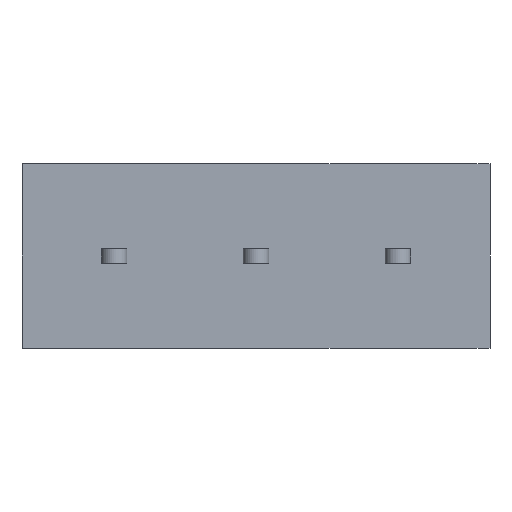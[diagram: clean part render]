
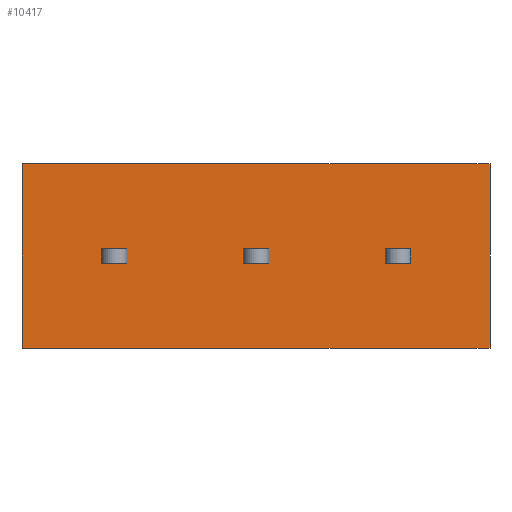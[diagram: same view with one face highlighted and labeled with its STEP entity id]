
A CAD part, front view. The second image highlights one B-rep face of the part: STEP entity #10417.
In plain terms, the highlighted planar face has unit normal (0, -1, 0).
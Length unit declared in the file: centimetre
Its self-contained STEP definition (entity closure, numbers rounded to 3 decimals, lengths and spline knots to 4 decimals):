
#595=VECTOR('',#11259,1.);
#598=VECTOR('',#11265,1.);
#607=VECTOR('',#11288,1.);
#610=VECTOR('',#11296,1.);
#1012=VECTOR('',#11840,1.);
#1101=VECTOR('',#12065,1.);
#1105=VECTOR('',#12070,1.);
#1116=VECTOR('',#12103,1.);
#1118=VECTOR('',#12106,1.);
#1219=VECTOR('',#12353,1.);
#1223=VECTOR('',#12358,1.);
#1234=VECTOR('',#12391,1.);
#1236=VECTOR('',#12394,1.);
#1285=VECTOR('',#12475,1.);
#1293=VECTOR('',#12484,1.);
#1294=VECTOR('',#12485,1.);
#1787=LINE('',#13329,#595);
#1790=LINE('',#13338,#598);
#1799=LINE('',#13361,#607);
#1802=LINE('',#13369,#610);
#2204=LINE('',#14873,#1012);
#2293=LINE('',#15183,#1101);
#2297=LINE('',#15192,#1105);
#2308=LINE('',#15227,#1116);
#2310=LINE('',#15231,#1118);
#2411=LINE('',#15565,#1219);
#2415=LINE('',#15574,#1223);
#2426=LINE('',#15609,#1234);
#2428=LINE('',#15613,#1236);
#2477=LINE('',#15714,#1285);
#2485=LINE('',#15731,#1293);
#2486=LINE('',#15732,#1294);
#2994=VERTEX_POINT('',#13330);
#2995=VERTEX_POINT('',#13331);
#2998=VERTEX_POINT('',#13339);
#3003=VERTEX_POINT('',#13362);
#3341=VERTEX_POINT('',#14871);
#3343=VERTEX_POINT('',#14874);
#3439=VERTEX_POINT('',#15184);
#3440=VERTEX_POINT('',#15185);
#3443=VERTEX_POINT('',#15193);
#3454=VERTEX_POINT('',#15228);
#3553=VERTEX_POINT('',#15566);
#3554=VERTEX_POINT('',#15567);
#3557=VERTEX_POINT('',#15575);
#3568=VERTEX_POINT('',#15610);
#3593=VERTEX_POINT('',#15715);
#3594=VERTEX_POINT('',#15716);
#4173=EDGE_CURVE('',#2994,#2995,#1787,.T.);
#4177=EDGE_CURVE('',#2995,#2998,#1790,.T.);
#4189=EDGE_CURVE('',#2998,#3003,#1799,.T.);
#4193=EDGE_CURVE('',#3003,#2994,#1802,.T.);
#4701=EDGE_CURVE('',#3343,#3341,#2204,.T.);
#4836=EDGE_CURVE('',#3439,#3440,#2293,.T.);
#4840=EDGE_CURVE('',#3443,#3439,#2297,.T.);
#4857=EDGE_CURVE('',#3454,#3443,#2308,.T.);
#4859=EDGE_CURVE('',#3440,#3454,#2310,.T.);
#5006=EDGE_CURVE('',#3553,#3554,#2411,.T.);
#5010=EDGE_CURVE('',#3557,#3553,#2415,.T.);
#5027=EDGE_CURVE('',#3568,#3557,#2426,.T.);
#5029=EDGE_CURVE('',#3554,#3568,#2428,.T.);
#5080=EDGE_CURVE('',#3593,#3594,#2477,.T.);
#5088=EDGE_CURVE('',#3594,#3343,#2485,.T.);
#5089=EDGE_CURVE('',#3593,#3341,#2486,.T.);
#7620=ORIENTED_EDGE('',*,*,#4189,.F.);
#7621=ORIENTED_EDGE('',*,*,#4177,.F.);
#7622=ORIENTED_EDGE('',*,*,#4173,.F.);
#7623=ORIENTED_EDGE('',*,*,#4193,.F.);
#7624=ORIENTED_EDGE('',*,*,#4840,.T.);
#7625=ORIENTED_EDGE('',*,*,#4836,.T.);
#7626=ORIENTED_EDGE('',*,*,#4859,.T.);
#7627=ORIENTED_EDGE('',*,*,#4857,.T.);
#7628=ORIENTED_EDGE('',*,*,#5010,.T.);
#7629=ORIENTED_EDGE('',*,*,#5006,.T.);
#7630=ORIENTED_EDGE('',*,*,#5029,.T.);
#7631=ORIENTED_EDGE('',*,*,#5027,.T.);
#7632=ORIENTED_EDGE('',*,*,#5088,.T.);
#7633=ORIENTED_EDGE('',*,*,#4701,.T.);
#7634=ORIENTED_EDGE('',*,*,#5089,.F.);
#7635=ORIENTED_EDGE('',*,*,#5080,.T.);
#9165=EDGE_LOOP('',(#7620,#7621,#7622,#7623));
#9166=EDGE_LOOP('',(#7624,#7625,#7626,#7627));
#9167=EDGE_LOOP('',(#7628,#7629,#7630,#7631));
#9168=EDGE_LOOP('',(#7632,#7633,#7634,#7635));
#9813=FACE_BOUND('',#9165,.T.);
#9814=FACE_BOUND('',#9166,.T.);
#9815=FACE_BOUND('',#9167,.T.);
#9816=FACE_BOUND('',#9168,.T.);
#10417=ADVANCED_FACE('',(#9813,#9814,#9815,#9816),#10909,.T.);
#10909=PLANE('',#17747);
#11259=DIRECTION('',(-1.,0.,0.));
#11265=DIRECTION('',(0.,0.,-1.));
#11288=DIRECTION('',(1.,0.,0.));
#11296=DIRECTION('',(0.,0.,1.));
#11840=DIRECTION('',(0.,0.,1.));
#12065=DIRECTION('',(0.,0.,1.));
#12070=DIRECTION('',(-1.,0.,0.));
#12103=DIRECTION('',(0.,0.,-1.));
#12106=DIRECTION('',(1.,0.,0.));
#12353=DIRECTION('',(0.,0.,1.));
#12358=DIRECTION('',(-1.,0.,0.));
#12391=DIRECTION('',(0.,0.,-1.));
#12394=DIRECTION('',(1.,0.,0.));
#12475=DIRECTION('',(0.,0.,-1.));
#12483=DIRECTION('',(0.,-1.,0.));
#12484=DIRECTION('',(1.,0.,0.));
#12485=DIRECTION('',(1.,0.,0.));
#13329=CARTESIAN_POINT('',(-0.63,0.,0.05));
#13330=CARTESIAN_POINT('',(-0.33,0.,0.05));
#13331=CARTESIAN_POINT('',(-0.51,0.,0.05));
#13338=CARTESIAN_POINT('',(-0.51,0.,-0.175));
#13339=CARTESIAN_POINT('',(-0.51,0.,-0.05));
#13361=CARTESIAN_POINT('',(-0.63,0.,-0.05));
#13362=CARTESIAN_POINT('',(-0.33,0.,-0.05));
#13369=CARTESIAN_POINT('',(-0.33,0.,-0.175));
#14871=CARTESIAN_POINT('',(2.23,0.,0.65));
#14873=CARTESIAN_POINT('',(2.23,0.,0.65));
#14874=CARTESIAN_POINT('',(2.23,0.,-0.65));
#15183=CARTESIAN_POINT('',(1.49,0.,-0.175));
#15184=CARTESIAN_POINT('',(1.49,0.,-0.05));
#15185=CARTESIAN_POINT('',(1.49,0.,0.05));
#15192=CARTESIAN_POINT('',(0.79,0.,-0.05));
#15193=CARTESIAN_POINT('',(1.67,0.,-0.05));
#15227=CARTESIAN_POINT('',(1.67,0.,-0.175));
#15228=CARTESIAN_POINT('',(1.67,0.,0.05));
#15231=CARTESIAN_POINT('',(0.79,0.,0.05));
#15565=CARTESIAN_POINT('',(0.49,0.,-0.175));
#15566=CARTESIAN_POINT('',(0.49,0.,-0.05));
#15567=CARTESIAN_POINT('',(0.49,0.,0.05));
#15574=CARTESIAN_POINT('',(0.29,0.,-0.05));
#15575=CARTESIAN_POINT('',(0.67,0.,-0.05));
#15609=CARTESIAN_POINT('',(0.67,0.,-0.175));
#15610=CARTESIAN_POINT('',(0.67,0.,0.05));
#15613=CARTESIAN_POINT('',(0.29,0.,0.05));
#15714=CARTESIAN_POINT('',(-1.07,0.,0.65));
#15715=CARTESIAN_POINT('',(-1.07,0.,0.65));
#15716=CARTESIAN_POINT('',(-1.07,0.,-0.65));
#15730=CARTESIAN_POINT('',(-1.07,0.,0.));
#15731=CARTESIAN_POINT('',(-1.07,0.,-0.65));
#15732=CARTESIAN_POINT('',(-1.07,0.,0.65));
#17747=AXIS2_PLACEMENT_3D('',#15730,#12483,$);
